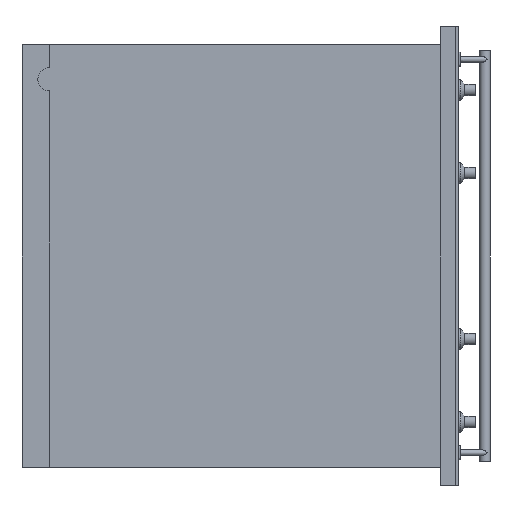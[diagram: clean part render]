
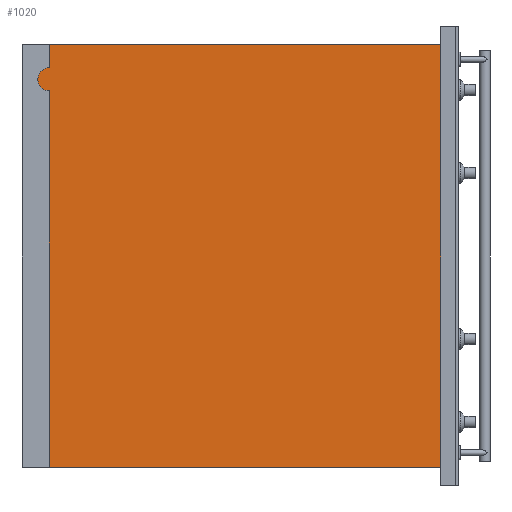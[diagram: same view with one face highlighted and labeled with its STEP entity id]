
A CAD part, front view. The second image highlights one B-rep face of the part: STEP entity #1020.
In plain terms, the highlighted planar face has unit normal (0, -1, 0).
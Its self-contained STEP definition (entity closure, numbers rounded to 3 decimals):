
#748=CIRCLE('',#5381,15.);
#1020=ADVANCED_FACE('',(#1460),#1241,.T.);
#1241=PLANE('',#5382);
#1460=FACE_OUTER_BOUND('',#1815,.T.);
#1815=EDGE_LOOP('',(#2825,#2826,#2827,#2828,#2829,#2830));
#2825=ORIENTED_EDGE('',*,*,#4071,.F.);
#2826=ORIENTED_EDGE('',*,*,#4070,.F.);
#2827=ORIENTED_EDGE('',*,*,#4072,.T.);
#2828=ORIENTED_EDGE('',*,*,#4043,.T.);
#2829=ORIENTED_EDGE('',*,*,#4073,.T.);
#2830=ORIENTED_EDGE('',*,*,#4045,.T.);
#3475=VERTEX_POINT('',#8193);
#3476=VERTEX_POINT('',#8195);
#3477=VERTEX_POINT('',#8199);
#3478=VERTEX_POINT('',#8200);
#3493=VERTEX_POINT('',#8245);
#3494=VERTEX_POINT('',#8247);
#4043=EDGE_CURVE('',#3476,#3475,#4497,.T.);
#4045=EDGE_CURVE('',#3477,#3478,#4499,.T.);
#4070=EDGE_CURVE('',#3494,#3493,#4523,.T.);
#4071=EDGE_CURVE('',#3493,#3478,#4524,.T.);
#4072=EDGE_CURVE('',#3494,#3476,#4525,.T.);
#4073=EDGE_CURVE('',#3475,#3477,#748,.T.);
#4497=LINE('',#8194,#4902);
#4499=LINE('',#8198,#4904);
#4523=LINE('',#8248,#4928);
#4524=LINE('',#8250,#4929);
#4525=LINE('',#8251,#4930);
#4902=VECTOR('',#6478,1.);
#4904=VECTOR('',#6482,1.);
#4928=VECTOR('',#6522,1.);
#4929=VECTOR('',#6525,1.);
#4930=VECTOR('',#6526,1.);
#5381=AXIS2_PLACEMENT_3D('',#8252,#6527,#6528);
#5382=AXIS2_PLACEMENT_3D('',#8253,#6529,#6530);
#6478=DIRECTION('',(0.,0.,-1.));
#6482=DIRECTION('',(0.,0.,-1.));
#6522=DIRECTION('',(0.,0.,-1.));
#6525=DIRECTION('',(-1.,0.,0.));
#6526=DIRECTION('',(-1.,0.,0.));
#6527=DIRECTION('',(0.,-1.,0.));
#6528=DIRECTION('',(0.,0.,1.));
#6529=DIRECTION('',(0.,-1.,0.));
#6530=DIRECTION('',(0.,0.,-1.));
#8193=CARTESIAN_POINT('',(35.7,0.,245.012));
#8194=CARTESIAN_POINT('',(35.7,0.,275.012));
#8195=CARTESIAN_POINT('',(35.7,0.,275.012));
#8198=CARTESIAN_POINT('',(35.7,0.,275.012));
#8199=CARTESIAN_POINT('',(35.7,0.,215.012));
#8200=CARTESIAN_POINT('',(35.7,0.,-274.988));
#8245=CARTESIAN_POINT('',(545.,0.,-274.988));
#8247=CARTESIAN_POINT('',(545.,0.,275.012));
#8248=CARTESIAN_POINT('',(545.,0.,275.012));
#8250=CARTESIAN_POINT('',(545.,0.,-274.988));
#8251=CARTESIAN_POINT('',(545.,0.,275.012));
#8252=CARTESIAN_POINT('',(35.7,0.,230.012));
#8253=CARTESIAN_POINT('',(545.,0.,275.012));
